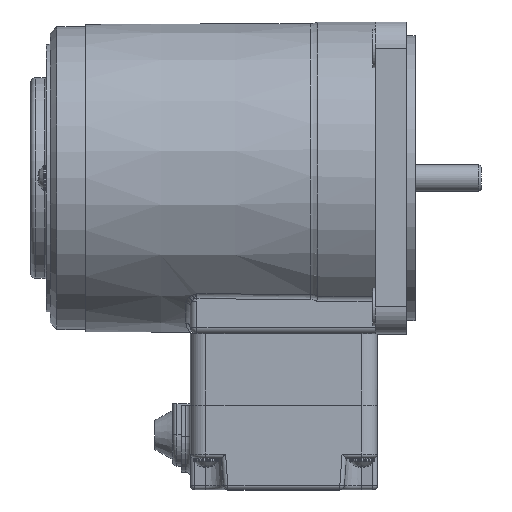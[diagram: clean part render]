
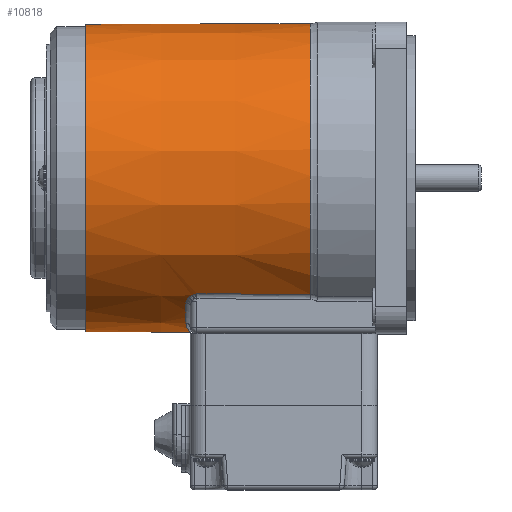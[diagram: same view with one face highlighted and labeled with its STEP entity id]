
A CAD part, top view. The second image highlights one B-rep face of the part: STEP entity #10818.
In plain terms, the highlighted conical face has half-angle 0.227 degrees and reference radius 34.6 mm.
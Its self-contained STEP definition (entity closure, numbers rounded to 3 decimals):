
#111=B_SPLINE_CURVE_WITH_KNOTS('',3,(#16480,#16481,#16482,#16483),
 .UNSPECIFIED.,.F.,.F.,(4,4),(-4.151,-1.604),
 .UNSPECIFIED.);
#118=B_SPLINE_CURVE_WITH_KNOTS('',3,(#16546,#16547,#16548,#16549),
 .UNSPECIFIED.,.F.,.F.,(4,4),(-5.195,-2.649),
 .UNSPECIFIED.);
#126=B_SPLINE_CURVE_WITH_KNOTS('',3,(#16675,#16676,#16677,#16678,#16679,
#16680,#16681,#16682),.UNSPECIFIED.,.F.,.F.,(4,1,1,2,4),(-0.126,
-0.076,-0.051,0.,0.),
 .UNSPECIFIED.);
#127=B_SPLINE_CURVE_WITH_KNOTS('',3,(#16684,#16685,#16686,#16687),
 .UNSPECIFIED.,.F.,.F.,(4,4),(-0.11,0.),
 .UNSPECIFIED.);
#128=B_SPLINE_CURVE_WITH_KNOTS('',3,(#16689,#16690,#16691,#16692),
 .UNSPECIFIED.,.F.,.F.,(4,4),(-0.215,0.),
 .UNSPECIFIED.);
#129=B_SPLINE_CURVE_WITH_KNOTS('',3,(#16696,#16697,#16698,#16699,#16700,
#16701,#16702,#16703,#16704),.UNSPECIFIED.,.F.,.F.,(4,1,1,1,1,1,4),(-2.459,
-2.108,-1.757,-1.405,-1.054,
-0.351,0.),.UNSPECIFIED.);
#130=B_SPLINE_CURVE_WITH_KNOTS('',3,(#16708,#16709,#16710,#16711),
 .UNSPECIFIED.,.F.,.F.,(4,4),(-0.215,0.),
 .UNSPECIFIED.);
#131=B_SPLINE_CURVE_WITH_KNOTS('',3,(#16713,#16714,#16715,#16716),
 .UNSPECIFIED.,.F.,.F.,(4,4),(0.,0.11),.UNSPECIFIED.);
#132=B_SPLINE_CURVE_WITH_KNOTS('',3,(#16717,#16718,#16719,#16720,#16721,
#16722,#16723,#16724),.UNSPECIFIED.,.F.,.F.,(4,2,1,1,4),(-0.127,
-0.126,-0.076,-0.051,0.),
 .UNSPECIFIED.);
#1987=CONICAL_SURFACE('',#11572,34.6,0.227);
#2271=FACE_BOUND('',#3171,.T.);
#2474=FACE_OUTER_BOUND('',#3170,.T.);
#3170=EDGE_LOOP('',(#7338,#7339,#7340,#7341,#7342,#7343,#7344,#7345,#7346,
#7347,#7348,#7349));
#3171=EDGE_LOOP('',(#7350));
#3813=CIRCLE('',#11533,34.5);
#3818=CIRCLE('',#11544,34.7);
#3832=CIRCLE('',#11573,34.589);
#3833=CIRCLE('',#11574,34.589);
#4418=VERTEX_POINT('',#16390);
#4427=VERTEX_POINT('',#16434);
#4430=VERTEX_POINT('',#16475);
#4433=VERTEX_POINT('',#16496);
#4436=VERTEX_POINT('',#16532);
#4454=VERTEX_POINT('',#16674);
#4455=VERTEX_POINT('',#16683);
#4456=VERTEX_POINT('',#16688);
#4457=VERTEX_POINT('',#16693);
#4458=VERTEX_POINT('',#16695);
#4459=VERTEX_POINT('',#16705);
#4460=VERTEX_POINT('',#16707);
#4461=VERTEX_POINT('',#16712);
#5476=EDGE_CURVE('',#4418,#4418,#3813,.T.);
#5491=EDGE_CURVE('',#4430,#4427,#111,.T.);
#5497=EDGE_CURVE('',#4427,#4433,#3818,.T.);
#5503=EDGE_CURVE('',#4433,#4436,#118,.T.);
#5536=EDGE_CURVE('',#4454,#4430,#126,.T.);
#5537=EDGE_CURVE('',#4455,#4454,#127,.T.);
#5538=EDGE_CURVE('',#4456,#4455,#128,.T.);
#5539=EDGE_CURVE('',#4457,#4456,#3832,.T.);
#5540=EDGE_CURVE('',#4458,#4457,#129,.T.);
#5541=EDGE_CURVE('',#4459,#4458,#3833,.T.);
#5542=EDGE_CURVE('',#4460,#4459,#130,.T.);
#5543=EDGE_CURVE('',#4461,#4460,#131,.T.);
#5544=EDGE_CURVE('',#4436,#4461,#132,.T.);
#7338=ORIENTED_EDGE('',*,*,#5536,.F.);
#7339=ORIENTED_EDGE('',*,*,#5537,.F.);
#7340=ORIENTED_EDGE('',*,*,#5538,.F.);
#7341=ORIENTED_EDGE('',*,*,#5539,.F.);
#7342=ORIENTED_EDGE('',*,*,#5540,.F.);
#7343=ORIENTED_EDGE('',*,*,#5541,.F.);
#7344=ORIENTED_EDGE('',*,*,#5542,.F.);
#7345=ORIENTED_EDGE('',*,*,#5543,.F.);
#7346=ORIENTED_EDGE('',*,*,#5544,.F.);
#7347=ORIENTED_EDGE('',*,*,#5503,.F.);
#7348=ORIENTED_EDGE('',*,*,#5497,.F.);
#7349=ORIENTED_EDGE('',*,*,#5491,.F.);
#7350=ORIENTED_EDGE('',*,*,#5476,.T.);
#10818=ADVANCED_FACE('',(#2474,#2271),#1987,.T.);
#11533=AXIS2_PLACEMENT_3D('',#16391,#13022,#13023);
#11544=AXIS2_PLACEMENT_3D('',#16501,#13050,#13051);
#11572=AXIS2_PLACEMENT_3D('',#16673,#13119,#13120);
#11573=AXIS2_PLACEMENT_3D('',#16694,#13121,#13122);
#11574=AXIS2_PLACEMENT_3D('',#16706,#13123,#13124);
#13022=DIRECTION('center_axis',(1.,0.,0.));
#13023=DIRECTION('ref_axis',(0.,1.,0.));
#13050=DIRECTION('center_axis',(1.,0.,0.));
#13051=DIRECTION('ref_axis',(0.,1.,0.));
#13119=DIRECTION('center_axis',(1.,0.,0.));
#13120=DIRECTION('ref_axis',(0.,1.,0.));
#13121=DIRECTION('center_axis',(1.,0.,0.));
#13122=DIRECTION('ref_axis',(0.,-0.901,-0.434));
#13123=DIRECTION('center_axis',(1.,0.,0.));
#13124=DIRECTION('ref_axis',(0.,-0.901,0.434));
#16390=CARTESIAN_POINT('',(8.,34.5,0.));
#16391=CARTESIAN_POINT('Origin',(8.,0.,
0.));
#16434=CARTESIAN_POINT('',(58.46,-26.146,-22.814));
#16475=CARTESIAN_POINT('',(32.994,-26.014,-22.811));
#16480=CARTESIAN_POINT('Ctrl Pts',(32.994,-26.014,-22.811));
#16481=CARTESIAN_POINT('Ctrl Pts',(41.483,-26.058,-22.812));
#16482=CARTESIAN_POINT('Ctrl Pts',(49.971,-26.102,-22.813));
#16483=CARTESIAN_POINT('Ctrl Pts',(58.46,-26.146,-22.814));
#16496=CARTESIAN_POINT('',(58.46,-26.146,22.814));
#16501=CARTESIAN_POINT('Origin',(58.46,0.,
0.));
#16532=CARTESIAN_POINT('',(32.994,-26.014,22.811));
#16546=CARTESIAN_POINT('Ctrl Pts',(58.46,-26.146,22.814));
#16547=CARTESIAN_POINT('Ctrl Pts',(49.971,-26.102,22.813));
#16548=CARTESIAN_POINT('Ctrl Pts',(41.483,-26.058,22.812));
#16549=CARTESIAN_POINT('Ctrl Pts',(32.994,-26.014,22.811));
#16673=CARTESIAN_POINT('Origin',(33.23,0.,
0.));
#16674=CARTESIAN_POINT('',(31.869,-26.38,-22.381));
#16675=CARTESIAN_POINT('Ctrl Pts',(31.869,-26.38,-22.381));
#16676=CARTESIAN_POINT('Ctrl Pts',(32.009,-26.321,-22.45));
#16677=CARTESIAN_POINT('Ctrl Pts',(32.229,-26.242,-22.544));
#16678=CARTESIAN_POINT('Ctrl Pts',(32.605,-26.124,-22.683));
#16679=CARTESIAN_POINT('Ctrl Pts',(32.836,-26.059,-22.759));
#16680=CARTESIAN_POINT('Ctrl Pts',(32.991,-26.015,-22.81));
#16681=CARTESIAN_POINT('Ctrl Pts',(32.993,-26.015,-22.811));
#16682=CARTESIAN_POINT('Ctrl Pts',(32.994,-26.014,-22.811));
#16683=CARTESIAN_POINT('',(31.101,-26.865,-21.791));
#16684=CARTESIAN_POINT('Ctrl Pts',(31.101,-26.865,-21.791));
#16685=CARTESIAN_POINT('Ctrl Pts',(31.303,-26.678,-22.022));
#16686=CARTESIAN_POINT('Ctrl Pts',(31.564,-26.506,-22.23));
#16687=CARTESIAN_POINT('Ctrl Pts',(31.869,-26.38,-22.381));
#16688=CARTESIAN_POINT('',(30.504,-28.067,-20.216));
#16689=CARTESIAN_POINT('Ctrl Pts',(30.504,-28.067,-20.216));
#16690=CARTESIAN_POINT('Ctrl Pts',(30.504,-27.66,-20.78));
#16691=CARTESIAN_POINT('Ctrl Pts',(30.705,-27.229,-21.34));
#16692=CARTESIAN_POINT('Ctrl Pts',(31.101,-26.865,-21.791));
#16693=CARTESIAN_POINT('',(30.504,-32.559,-11.676));
#16694=CARTESIAN_POINT('Origin',(30.504,0.,
0.));
#16695=CARTESIAN_POINT('',(30.504,-32.559,11.676));
#16696=CARTESIAN_POINT('Ctrl Pts',(30.504,-32.559,11.676));
#16697=CARTESIAN_POINT('Ctrl Pts',(30.504,-32.943,10.605));
#16698=CARTESIAN_POINT('Ctrl Pts',(30.687,-33.606,8.422));
#16699=CARTESIAN_POINT('Ctrl Pts',(31.172,-34.269,5.101));
#16700=CARTESIAN_POINT('Ctrl Pts',(31.656,-34.607,1.72));
#16701=CARTESIAN_POINT('Ctrl Pts',(31.643,-34.607,-2.848));
#16702=CARTESIAN_POINT('Ctrl Pts',(30.751,-33.937,-7.329));
#16703=CARTESIAN_POINT('Ctrl Pts',(30.504,-32.943,-10.605));
#16704=CARTESIAN_POINT('Ctrl Pts',(30.504,-32.559,-11.676));
#16705=CARTESIAN_POINT('',(30.504,-28.067,20.216));
#16706=CARTESIAN_POINT('Origin',(30.504,0.,
0.));
#16707=CARTESIAN_POINT('',(31.101,-26.865,21.791));
#16708=CARTESIAN_POINT('Ctrl Pts',(31.101,-26.865,21.791));
#16709=CARTESIAN_POINT('Ctrl Pts',(30.705,-27.229,21.34));
#16710=CARTESIAN_POINT('Ctrl Pts',(30.504,-27.66,20.78));
#16711=CARTESIAN_POINT('Ctrl Pts',(30.504,-28.067,20.216));
#16712=CARTESIAN_POINT('',(31.869,-26.38,22.381));
#16713=CARTESIAN_POINT('Ctrl Pts',(31.869,-26.38,22.381));
#16714=CARTESIAN_POINT('Ctrl Pts',(31.564,-26.506,22.23));
#16715=CARTESIAN_POINT('Ctrl Pts',(31.303,-26.678,22.022));
#16716=CARTESIAN_POINT('Ctrl Pts',(31.101,-26.865,21.791));
#16717=CARTESIAN_POINT('Ctrl Pts',(32.994,-26.014,22.811));
#16718=CARTESIAN_POINT('Ctrl Pts',(32.993,-26.015,22.811));
#16719=CARTESIAN_POINT('Ctrl Pts',(32.991,-26.015,22.81));
#16720=CARTESIAN_POINT('Ctrl Pts',(32.836,-26.059,22.759));
#16721=CARTESIAN_POINT('Ctrl Pts',(32.605,-26.124,22.683));
#16722=CARTESIAN_POINT('Ctrl Pts',(32.229,-26.242,22.544));
#16723=CARTESIAN_POINT('Ctrl Pts',(32.009,-26.321,22.45));
#16724=CARTESIAN_POINT('Ctrl Pts',(31.869,-26.38,22.381));
